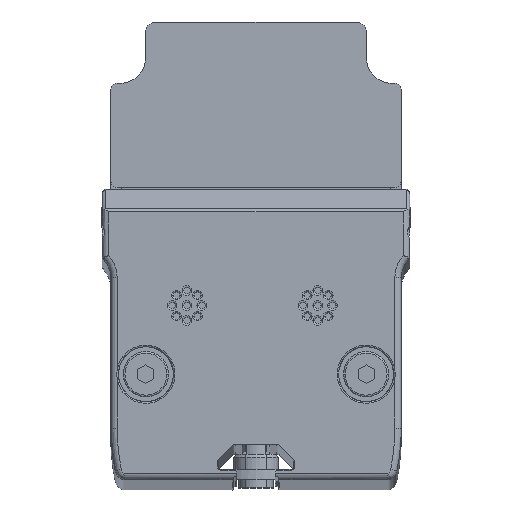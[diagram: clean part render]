
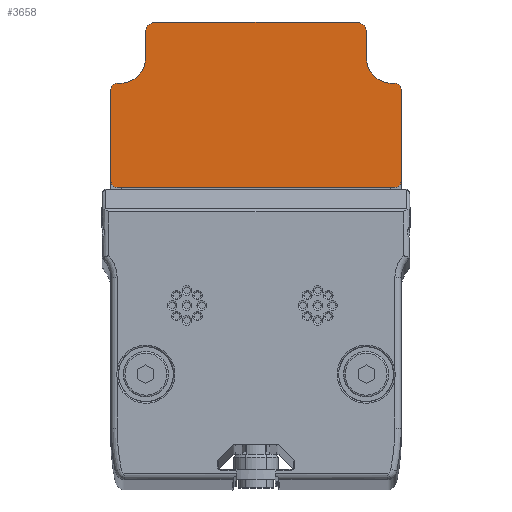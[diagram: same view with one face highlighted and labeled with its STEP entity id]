
A CAD part, top view. The second image highlights one B-rep face of the part: STEP entity #3658.
In plain terms, the highlighted planar face has unit normal (0, 0, 1).
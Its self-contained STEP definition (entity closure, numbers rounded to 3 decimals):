
#79 = EDGE_CURVE ( 'NONE', #31176, #18790, #20449, .T. ) ;
#175 = EDGE_CURVE ( 'NONE', #23373, #14163, #15169, .T. ) ;
#274 = LINE ( 'NONE', #12999, #15166 ) ;
#918 = CIRCLE ( 'NONE', #22012, 1. ) ;
#985 = CARTESIAN_POINT ( 'NONE',  ( 22.5, 0., 879. ) ) ;
#1339 = CARTESIAN_POINT ( 'NONE',  ( -15.5, 48.4, 879. ) ) ;
#2298 = ORIENTED_EDGE ( 'NONE', *, *, #15610, .T. ) ;
#2420 = EDGE_CURVE ( 'NONE', #2774, #11192, #10536, .T. ) ;
#2505 = DIRECTION ( 'NONE',  ( -1., 0., 0. ) ) ;
#2646 = EDGE_CURVE ( 'NONE', #8245, #29721, #19295, .T. ) ;
#2774 = VERTEX_POINT ( 'NONE', #16490 ) ;
#2855 = ORIENTED_EDGE ( 'NONE', *, *, #9933, .T. ) ;
#3421 = VECTOR ( 'NONE', #7322, 1000. ) ;
#3658 = ADVANCED_FACE ( 'NONE', ( #15572 ), #13252, .T. ) ;
#3705 = VECTOR ( 'NONE', #11851, 1000. ) ;
#4041 = EDGE_CURVE ( 'NONE', #2774, #24576, #22383, .T. ) ;
#4482 = AXIS2_PLACEMENT_3D ( 'NONE', #28650, #23353, #12919 ) ;
#4483 = CARTESIAN_POINT ( 'NONE',  ( 21.1, 38.9, 879. ) ) ;
#5269 = EDGE_CURVE ( 'NONE', #17753, #32448, #918, .T. ) ;
#5298 = DIRECTION ( 'NONE',  ( 1., 0., 0. ) ) ;
#5528 = CARTESIAN_POINT ( 'NONE',  ( -22.5, 37.9, 879. ) ) ;
#6035 = ORIENTED_EDGE ( 'NONE', *, *, #19666, .F. ) ;
#6137 = CIRCLE ( 'NONE', #10886, 1. ) ;
#6168 = CARTESIAN_POINT ( 'NONE',  ( 21.5, 38.9, 879. ) ) ;
#6368 = CARTESIAN_POINT ( 'NONE',  ( 0., 22.8, 879. ) ) ;
#6804 = ORIENTED_EDGE ( 'NONE', *, *, #14502, .F. ) ;
#6855 = AXIS2_PLACEMENT_3D ( 'NONE', #10207, #15528, #12554 ) ;
#7160 = ORIENTED_EDGE ( 'NONE', *, *, #8552, .T. ) ;
#7306 = ORIENTED_EDGE ( 'NONE', *, *, #31354, .T. ) ;
#7322 = DIRECTION ( 'NONE',  ( -1., 0., 0. ) ) ;
#7733 = CARTESIAN_POINT ( 'NONE',  ( 22.5, 37.9, 879. ) ) ;
#7746 = VECTOR ( 'NONE', #13524, 1000. ) ;
#7777 = AXIS2_PLACEMENT_3D ( 'NONE', #28003, #12756, #5298 ) ;
#8245 = VERTEX_POINT ( 'NONE', #27074 ) ;
#8476 = CARTESIAN_POINT ( 'NONE',  ( 0., 38.9, 879. ) ) ;
#8552 = EDGE_CURVE ( 'NONE', #14163, #31176, #23554, .T. ) ;
#8599 = ORIENTED_EDGE ( 'NONE', *, *, #5269, .T. ) ;
#8749 = CARTESIAN_POINT ( 'NONE',  ( -21.5, 22.8, 879. ) ) ;
#9570 = CARTESIAN_POINT ( 'NONE',  ( -21.1, 38.9, 879. ) ) ;
#9933 = EDGE_CURVE ( 'NONE', #8245, #20470, #6137, .T. ) ;
#10207 = CARTESIAN_POINT ( 'NONE',  ( 15.5, 46.8, 879. ) ) ;
#10273 = ORIENTED_EDGE ( 'NONE', *, *, #79, .T. ) ;
#10536 = CIRCLE ( 'NONE', #6855, 1.6 ) ;
#10652 = DIRECTION ( 'NONE',  ( 0., 0., -1. ) ) ;
#10767 = VERTEX_POINT ( 'NONE', #18962 ) ;
#10886 = AXIS2_PLACEMENT_3D ( 'NONE', #29163, #26516, #16546 ) ;
#11137 = DIRECTION ( 'NONE',  ( -1., 0., 0. ) ) ;
#11192 = VERTEX_POINT ( 'NONE', #12267 ) ;
#11257 = LINE ( 'NONE', #28513, #22129 ) ;
#11431 = ORIENTED_EDGE ( 'NONE', *, *, #175, .T. ) ;
#11566 = EDGE_CURVE ( 'NONE', #29320, #23373, #23638, .T. ) ;
#11616 = CARTESIAN_POINT ( 'NONE',  ( -22.5, 23.8, 879. ) ) ;
#11718 = DIRECTION ( 'NONE',  ( 0., 1., 0. ) ) ;
#11851 = DIRECTION ( 'NONE',  ( 1., 0., 0. ) ) ;
#11991 = VECTOR ( 'NONE', #11137, 1000. ) ;
#12267 = CARTESIAN_POINT ( 'NONE',  ( 17.1, 46.8, 879. ) ) ;
#12554 = DIRECTION ( 'NONE',  ( -1., 0., 0. ) ) ;
#12756 = DIRECTION ( 'NONE',  ( 0., 0., 1. ) ) ;
#12919 = DIRECTION ( 'NONE',  ( -1., 0., 0. ) ) ;
#12999 = CARTESIAN_POINT ( 'NONE',  ( -17.1, 0., 879. ) ) ;
#13252 = PLANE ( 'NONE',  #4482 ) ;
#13524 = DIRECTION ( 'NONE',  ( 0., 1., 0. ) ) ;
#13670 = EDGE_LOOP ( 'NONE', ( #28110, #2855, #6804, #8599, #6035, #7306, #23303, #11431, #7160, #10273, #13711, #16587, #16317, #23751, #24851, #2298 ) ) ;
#13683 = EDGE_CURVE ( 'NONE', #11192, #18790, #11257, .T. ) ;
#13711 = ORIENTED_EDGE ( 'NONE', *, *, #13683, .F. ) ;
#14163 = VERTEX_POINT ( 'NONE', #6168 ) ;
#14176 = VERTEX_POINT ( 'NONE', #16098 ) ;
#14190 = CARTESIAN_POINT ( 'NONE',  ( -21.5, 23.8, 879. ) ) ;
#14502 = EDGE_CURVE ( 'NONE', #17753, #20470, #23972, .T. ) ;
#14678 = CARTESIAN_POINT ( 'NONE',  ( 0., 38.9, 879. ) ) ;
#14751 = CARTESIAN_POINT ( 'NONE',  ( 17.1, 42.9, 879. ) ) ;
#15166 = VECTOR ( 'NONE', #20438, 1000. ) ;
#15169 = CIRCLE ( 'NONE', #32596, 1. ) ;
#15243 = CARTESIAN_POINT ( 'NONE',  ( -15.5, 46.8, 879. ) ) ;
#15320 = AXIS2_PLACEMENT_3D ( 'NONE', #15243, #19700, #2505 ) ;
#15528 = DIRECTION ( 'NONE',  ( 0., 0., -1. ) ) ;
#15572 = FACE_OUTER_BOUND ( 'NONE', #13670, .T. ) ;
#15610 = EDGE_CURVE ( 'NONE', #14176, #29721, #20055, .T. ) ;
#16098 = CARTESIAN_POINT ( 'NONE',  ( -17.1, 42.9, 879. ) ) ;
#16218 = AXIS2_PLACEMENT_3D ( 'NONE', #26395, #10652, #16274 ) ;
#16274 = DIRECTION ( 'NONE',  ( 1., 0., 0. ) ) ;
#16317 = ORIENTED_EDGE ( 'NONE', *, *, #4041, .T. ) ;
#16490 = CARTESIAN_POINT ( 'NONE',  ( 15.5, 48.4, 879. ) ) ;
#16546 = DIRECTION ( 'NONE',  ( 1., 0., 0. ) ) ;
#16587 = ORIENTED_EDGE ( 'NONE', *, *, #2420, .F. ) ;
#17753 = VERTEX_POINT ( 'NONE', #11616 ) ;
#18790 = VERTEX_POINT ( 'NONE', #14751 ) ;
#18962 = CARTESIAN_POINT ( 'NONE',  ( -17.1, 46.8, 879. ) ) ;
#19295 = LINE ( 'NONE', #14678, #3705 ) ;
#19563 = CARTESIAN_POINT ( 'NONE',  ( 22.5, 23.8, 879. ) ) ;
#19666 = EDGE_CURVE ( 'NONE', #32618, #32448, #28416, .T. ) ;
#19700 = DIRECTION ( 'NONE',  ( 0., 0., -1. ) ) ;
#19902 = CARTESIAN_POINT ( 'NONE',  ( 0., 48.4, 879. ) ) ;
#20055 = CIRCLE ( 'NONE', #21117, 4. ) ;
#20438 = DIRECTION ( 'NONE',  ( 0., -1., 0. ) ) ;
#20449 = CIRCLE ( 'NONE', #16218, 4. ) ;
#20470 = VERTEX_POINT ( 'NONE', #5528 ) ;
#21117 = AXIS2_PLACEMENT_3D ( 'NONE', #26676, #24191, #29007 ) ;
#21669 = CARTESIAN_POINT ( 'NONE',  ( 21.5, 22.8, 879. ) ) ;
#22012 = AXIS2_PLACEMENT_3D ( 'NONE', #14190, #29258, #23803 ) ;
#22129 = VECTOR ( 'NONE', #25862, 1000. ) ;
#22383 = LINE ( 'NONE', #19902, #3421 ) ;
#22953 = EDGE_CURVE ( 'NONE', #10767, #24576, #31692, .T. ) ;
#23303 = ORIENTED_EDGE ( 'NONE', *, *, #11566, .T. ) ;
#23353 = DIRECTION ( 'NONE',  ( 0., 0., 1. ) ) ;
#23373 = VERTEX_POINT ( 'NONE', #7733 ) ;
#23554 = LINE ( 'NONE', #8476, #11991 ) ;
#23638 = LINE ( 'NONE', #985, #7746 ) ;
#23751 = ORIENTED_EDGE ( 'NONE', *, *, #22953, .F. ) ;
#23803 = DIRECTION ( 'NONE',  ( 1., 0., 0. ) ) ;
#23972 = LINE ( 'NONE', #31586, #30610 ) ;
#24191 = DIRECTION ( 'NONE',  ( 0., 0., -1. ) ) ;
#24576 = VERTEX_POINT ( 'NONE', #1339 ) ;
#24851 = ORIENTED_EDGE ( 'NONE', *, *, #30672, .T. ) ;
#25862 = DIRECTION ( 'NONE',  ( 0., -1., 0. ) ) ;
#25905 = DIRECTION ( 'NONE',  ( 0., 0., 1. ) ) ;
#26053 = DIRECTION ( 'NONE',  ( 1., 0., 0. ) ) ;
#26395 = CARTESIAN_POINT ( 'NONE',  ( 21.1, 42.9, 879. ) ) ;
#26516 = DIRECTION ( 'NONE',  ( 0., 0., 1. ) ) ;
#26676 = CARTESIAN_POINT ( 'NONE',  ( -21.1, 42.9, 879. ) ) ;
#26831 = CIRCLE ( 'NONE', #7777, 1. ) ;
#27074 = CARTESIAN_POINT ( 'NONE',  ( -21.5, 38.9, 879. ) ) ;
#28003 = CARTESIAN_POINT ( 'NONE',  ( 21.5, 23.8, 879. ) ) ;
#28110 = ORIENTED_EDGE ( 'NONE', *, *, #2646, .F. ) ;
#28416 = LINE ( 'NONE', #6368, #29462 ) ;
#28513 = CARTESIAN_POINT ( 'NONE',  ( 17.1, 0., 879. ) ) ;
#28650 = CARTESIAN_POINT ( 'NONE',  ( 0., 0., 879. ) ) ;
#28705 = CARTESIAN_POINT ( 'NONE',  ( 21.5, 37.9, 879. ) ) ;
#29007 = DIRECTION ( 'NONE',  ( 1., 0., 0. ) ) ;
#29163 = CARTESIAN_POINT ( 'NONE',  ( -21.5, 37.9, 879. ) ) ;
#29258 = DIRECTION ( 'NONE',  ( 0., 0., 1. ) ) ;
#29320 = VERTEX_POINT ( 'NONE', #19563 ) ;
#29462 = VECTOR ( 'NONE', #31518, 1000. ) ;
#29721 = VERTEX_POINT ( 'NONE', #9570 ) ;
#30610 = VECTOR ( 'NONE', #11718, 1000. ) ;
#30672 = EDGE_CURVE ( 'NONE', #10767, #14176, #274, .T. ) ;
#31176 = VERTEX_POINT ( 'NONE', #4483 ) ;
#31354 = EDGE_CURVE ( 'NONE', #32618, #29320, #26831, .T. ) ;
#31518 = DIRECTION ( 'NONE',  ( -1., 0., 0. ) ) ;
#31586 = CARTESIAN_POINT ( 'NONE',  ( -22.5, 0., 879. ) ) ;
#31692 = CIRCLE ( 'NONE', #15320, 1.6 ) ;
#32448 = VERTEX_POINT ( 'NONE', #8749 ) ;
#32596 = AXIS2_PLACEMENT_3D ( 'NONE', #28705, #25905, #26053 ) ;
#32618 = VERTEX_POINT ( 'NONE', #21669 ) ;
